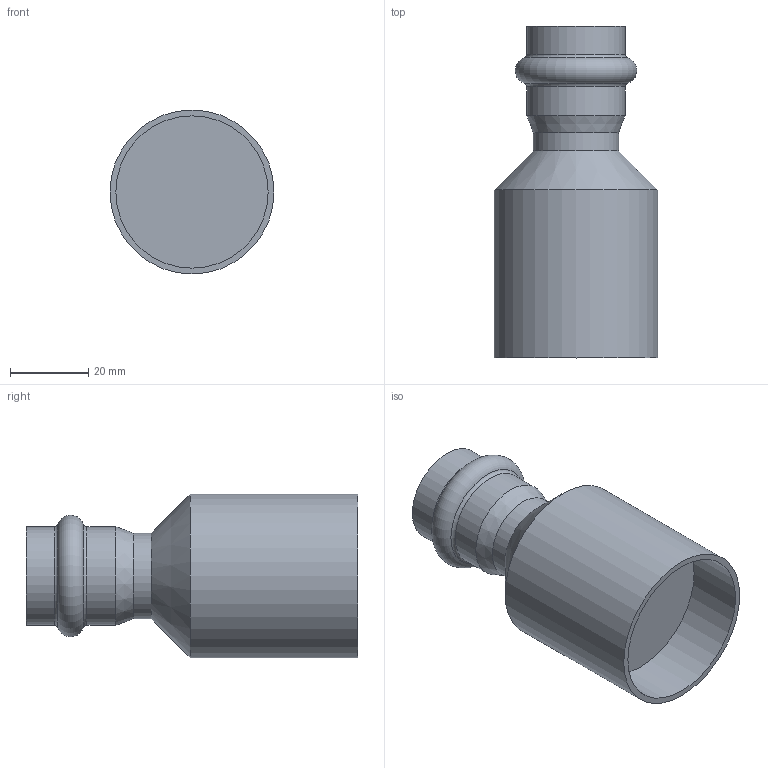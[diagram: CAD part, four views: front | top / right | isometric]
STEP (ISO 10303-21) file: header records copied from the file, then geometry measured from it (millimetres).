
FILE_DESCRIPTION(('STEP AP203'), '1');
FILE_NAME('VTi.905.I.004222', '', ('UNSPECIFIED'), ('UNSPECIFIED'), 'C3D Converter', 'C3D Toolkit', '');
FILE_SCHEMA(('CONFIG_CONTROL_DESIGN'));
Length unit declared in the file: millimetre
Bounding box: 42 x 85 x 42 mm (x, y, z)
Volume: 63626.3 mm3; surface area: 14128.5 mm2
Topology: 1 solids, 1 shells, 15 faces, 26 edges, 15 vertices
Faces by surface type: cylinder 6, plane 4, torus 3, cone 2
Full cylindrical faces by diameter (mm): 22 x1, 22.3 x1, 25.2 x2, 39 x1, 42 x1
Entity records: 344 total; most frequent: DIRECTION 62, CARTESIAN_POINT 46, AXIS2_PLACEMENT_3D 31, ORIENTED_EDGE 30, EDGE_LOOP 28, FACE_OUTER_BOUND 20, ADVANCED_FACE 15, EDGE_CURVE 15
